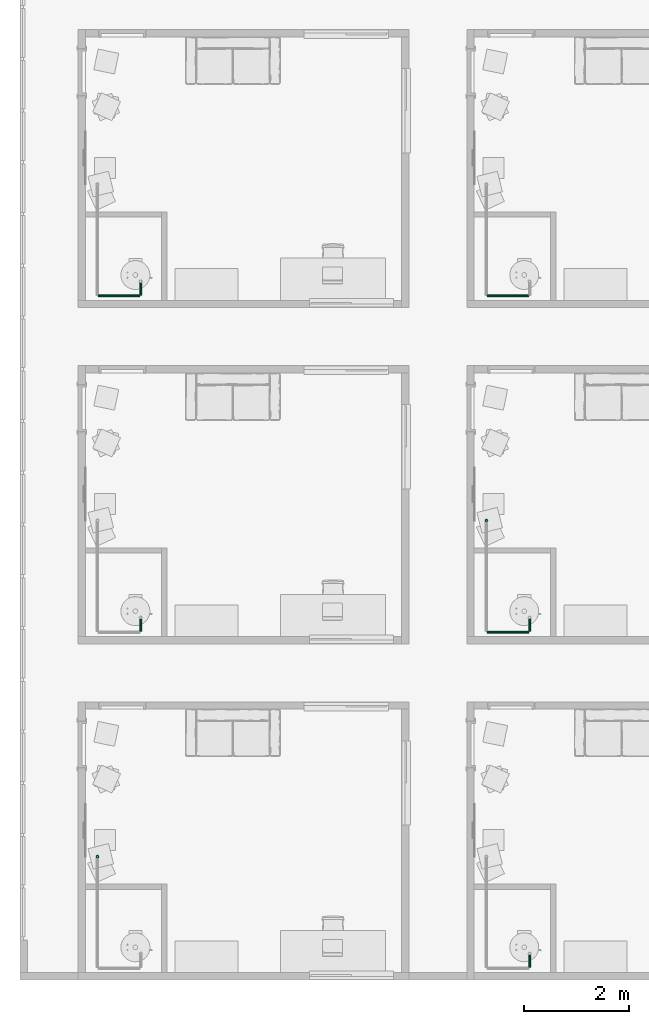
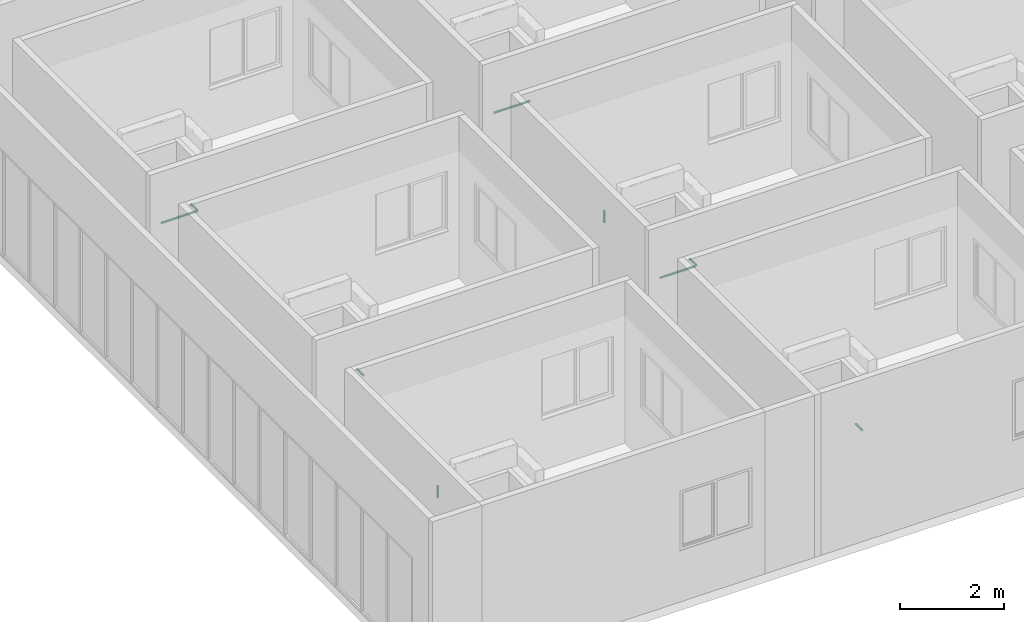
# One storey, part 40 of 71: 9 pipe segments.
"""IFC4 building model written with IfcOpenShell, lengths in centimetres."""

from ifc_helpers import new_model, entity, si_unit, converted_unit, derived_unit, direction, frame, origin, place, context, subcontext, project, spatial, arc, indexed_curve, outline, extrude, type_object, element, save


model = new_model("IFC4")

# Units and contexts
model_context = context("Model", 3, precision=0.001, world=origin(), true_north=direction((6.123233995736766e-17, 1.0)))
body_context = subcontext(model_context, "Body", "Model", "MODEL_VIEW")
ifc_project = project(units=[si_unit("LENGTHUNIT", "METRE", prefix="CENTI"), si_unit("AREAUNIT", "SQUARE_METRE"), si_unit("VOLUMEUNIT", "CUBIC_METRE"), derived_unit("THERMALTRANSMITTANCEUNIT", [(si_unit("MASSUNIT", "GRAM", prefix="KILO"), 1), (si_unit("THERMODYNAMICTEMPERATUREUNIT", "KELVIN"), -1), (si_unit("TIMEUNIT", "SECOND"), -3)]), converted_unit("PLANEANGLEUNIT", "DEGREE", entity("IfcPlaneAngleMeasure", 0.017453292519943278), si_unit("PLANEANGLEUNIT", "RADIAN"), dimensions=[0, 0, 0, 0, 0, 0, 0]), derived_unit("MASSDENSITYUNIT", [(si_unit("MASSUNIT", "GRAM", prefix="KILO"), 1), (si_unit("LENGTHUNIT", "METRE"), -3)]), derived_unit("VAPORPERMEABILITYUNIT", [(si_unit("LENGTHUNIT", "METRE"), -1), (si_unit("TIMEUNIT", "SECOND"), 1)]), derived_unit("USERDEFINED", [(si_unit("MASSUNIT", "GRAM", prefix="KILO"), 1), (si_unit("TIMEUNIT", "SECOND"), -3), (si_unit("LENGTHUNIT", "METRE"), 3), (si_unit("ELECTRICCURRENTUNIT", "AMPERE"), -2)]), derived_unit("SPECIFICHEATCAPACITYUNIT", [(si_unit("THERMODYNAMICTEMPERATUREUNIT", "KELVIN"), -1), (si_unit("LENGTHUNIT", "METRE"), 2), (si_unit("TIMEUNIT", "SECOND"), -2)]), derived_unit("THERMALCONDUCTANCEUNIT", [(si_unit("MASSUNIT", "GRAM", prefix="KILO"), 1), (si_unit("THERMODYNAMICTEMPERATUREUNIT", "KELVIN"), -1), (si_unit("TIMEUNIT", "SECOND"), -3), (si_unit("LENGTHUNIT", "METRE"), 1)]), si_unit("PRESSUREUNIT", "PASCAL"), derived_unit("MODULUSOFELASTICITYUNIT", [(si_unit("MASSUNIT", "GRAM", prefix="KILO"), 1), (si_unit("LENGTHUNIT", "METRE"), -1), (si_unit("TIMEUNIT", "SECOND"), -2)]), derived_unit("THERMALEXPANSIONCOEFFICIENTUNIT", [(si_unit("THERMODYNAMICTEMPERATUREUNIT", "KELVIN"), -1)])], contexts=[model_context])

# Site, building, storey
site_placement = place(None, origin())
site = spatial("IfcSite", under=ifc_project, at=site_placement, Name="Default", CompositionType="ELEMENT")
building_placement = place(site_placement, origin())
building = spatial("IfcBuilding", under=site, at=building_placement, Name="IDS Escape Game Building", CompositionType="ELEMENT")
storey_placement = place(building_placement, frame((0.0, 0.0, 400.0)))
storey = spatial("IfcBuildingStorey", under=building, at=storey_placement, Name="01_First Floor", CompositionType="ELEMENT", Elevation=399.99999999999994)

# Pipe segments
pipe_segment_type = type_object("IfcPipeSegmentType", Name="Pipe Types:Piping Aluminum", PredefinedType="NOTDEFINED")
pipe_segment_1_placement = place(storey_placement, origin())
element("IfcPipeSegment", 1, at=pipe_segment_1_placement, inside=storey, type_object=pipe_segment_type, Name="Pipe Types:Piping Aluminum", ObjectType="Pipe Types:Piping Aluminum", PredefinedType="NOTDEFINED", context=body_context, shape_type="SweptSolid", body=[
    extrude(outline(indexed_curve([(2.4130000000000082, -2.7071678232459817e-14), (1.706248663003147, 1.7062486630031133), (-3.383959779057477e-15, 2.412999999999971), (-1.7062486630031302, 1.7062486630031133), (-2.412999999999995, 0.0), (-1.7062486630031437, -1.7062486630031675), (-6.767919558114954e-15, -2.413000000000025), (1.7062486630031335, -1.7062486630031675)], segments=[arc(1, 2, 3), arc(3, 4, 5), arc(5, 6, 7), arc(7, 8, 1)], self_intersect=False)), frame((30.046716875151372, 233.26482792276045, 244.09999999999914), z_axis=(0.0, 0.0, 1.0), x_axis=(-1.0, 0.0, 0.0)), (0.0, 0.0, 1.0), 27.900000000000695),
])
pipe_segment_2_placement = place(storey_placement, origin())
element("IfcPipeSegment", 2, at=pipe_segment_2_placement, inside=storey, type_object=pipe_segment_type, Name="Pipe Types:Piping Aluminum", ObjectType="Pipe Types:Piping Aluminum", PredefinedType="NOTDEFINED", context=body_context, shape_type="SweptSolid", body=[
    extrude(outline(indexed_curve([(2.4129999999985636, 0.0), (1.7062486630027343, 1.706248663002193), (1.4077272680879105e-12, 2.412999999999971), (-1.7062486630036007, 1.706248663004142), (-2.4130000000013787, 0.0), (-1.7062486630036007, -1.706248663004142), (1.4077272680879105e-12, -2.412999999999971), (1.7062486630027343, -1.706248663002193)], segments=[arc(1, 2, 3), arc(3, 4, 5), arc(5, 6, 7), arc(7, 8, 1)], self_intersect=False)), frame((850.1500000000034, 22.364827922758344, 242.0), z_axis=(0.0, 1.0, 0.0), x_axis=(-1.0, 0.0, 0.0)), (0.0, 0.0, 1.0), 25.43517207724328),
])
pipe_segment_3_placement = place(storey_placement, origin())
element("IfcPipeSegment", 3, at=pipe_segment_3_placement, inside=storey, type_object=pipe_segment_type, Name="Pipe Types:Piping Aluminum", ObjectType="Pipe Types:Piping Aluminum", PredefinedType="NOTDEFINED", context=body_context, shape_type="SweptSolid", body=[
    extrude(outline(indexed_curve([(2.412999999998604, 0.0), (1.7062486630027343, 1.706248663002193), (1.3941914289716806e-12, 2.412999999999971), (-1.7062486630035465, 1.706248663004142), (-2.4130000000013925, 0.0), (-1.70624866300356, -1.706248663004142), (1.3806555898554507e-12, -2.412999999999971), (1.7062486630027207, -1.706248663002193)], segments=[arc(1, 2, 3), arc(3, 4, 5), arc(5, 6, 7), arc(7, 8, 1)], self_intersect=False)), frame((112.15000000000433, 660.3648279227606, 242.0), z_axis=(0.0, 1.0, 0.0), x_axis=(-1.0, 0.0, 0.0)), (0.0, 0.0, 1.0), 25.43517207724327),
])
pipe_segment_4_placement = place(storey_placement, origin())
element("IfcPipeSegment", 4, at=pipe_segment_4_placement, inside=storey, type_object=pipe_segment_type, Name="Pipe Types:Piping Aluminum", ObjectType="Pipe Types:Piping Aluminum", PredefinedType="NOTDEFINED", context=body_context, shape_type="SweptSolid", body=[
    extrude(outline(indexed_curve([(2.4129999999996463, -2.165734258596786e-13), (1.7062486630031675, 1.7062486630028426), (4.331468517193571e-13, 2.4130000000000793), (-1.7062486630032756, 1.706248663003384), (-2.413000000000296, -2.165734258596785e-13), (-1.706248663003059, -1.706248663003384), (4.3314685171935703e-13, -2.412999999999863), (1.7062486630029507, -1.7062486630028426)], segments=[arc(1, 2, 3), arc(3, 4, 5), arc(5, 6, 7), arc(7, 8, 1)], self_intersect=False)), frame((769.1467168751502, 659.2648279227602, 242.0), z_axis=(1.0, 0.0, 0.0), x_axis=(0.0, 1.0, 0.0)), (0.0, 0.0, 1.0), 79.90328312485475),
])
pipe_segment_5_placement = place(storey_placement, origin())
element("IfcPipeSegment", 5, at=pipe_segment_5_placement, inside=storey, type_object=pipe_segment_type, Name="Pipe Types:Piping Aluminum", ObjectType="Pipe Types:Piping Aluminum", PredefinedType="NOTDEFINED", context=body_context, shape_type="SweptSolid", body=[
    extrude(outline(indexed_curve([(2.4129999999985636, 0.0), (1.7062486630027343, 1.706248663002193), (1.4077272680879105e-12, 2.412999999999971), (-1.7062486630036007, 1.706248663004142), (-2.4130000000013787, 0.0), (-1.7062486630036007, -1.706248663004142), (1.4077272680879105e-12, -2.412999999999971), (1.7062486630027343, -1.706248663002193)], segments=[arc(1, 2, 3), arc(3, 4, 5), arc(5, 6, 7), arc(7, 8, 1)], self_intersect=False)), frame((850.1500000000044, 660.3648279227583, 242.0), z_axis=(0.0, 1.0, 0.0), x_axis=(-1.0, 0.0, 0.0)), (0.0, 0.0, 1.0), 25.43517207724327),
])
pipe_segment_6_placement = place(storey_placement, origin())
element("IfcPipeSegment", 6, at=pipe_segment_6_placement, inside=storey, type_object=pipe_segment_type, Name="Pipe Types:Piping Aluminum", ObjectType="Pipe Types:Piping Aluminum", PredefinedType="NOTDEFINED", context=body_context, shape_type="SweptSolid", body=[
    extrude(outline(indexed_curve([(2.412999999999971, 0.0), (1.7062486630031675, 1.7062486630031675), (0.0, 2.412999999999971), (-1.7062486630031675, 1.7062486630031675), (-2.412999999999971, 0.0), (-1.7062486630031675, -1.7062486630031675), (0.0, -2.412999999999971), (1.7062486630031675, -1.7062486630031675)], segments=[arc(1, 2, 3), arc(3, 4, 5), arc(5, 6, 7), arc(7, 8, 1)], self_intersect=False)), frame((768.0467168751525, 871.2648279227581, 244.09999999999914), z_axis=(0.0, 0.0, 1.0), x_axis=(-1.0, 0.0, 0.0)), (0.0, 0.0, 1.0), 27.900000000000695),
])
pipe_segment_7_placement = place(storey_placement, origin())
element("IfcPipeSegment", 7, at=pipe_segment_7_placement, inside=storey, type_object=pipe_segment_type, Name="Pipe Types:Piping Aluminum", ObjectType="Pipe Types:Piping Aluminum", PredefinedType="NOTDEFINED", context=body_context, shape_type="SweptSolid", body=[
    extrude(outline(indexed_curve([(2.412999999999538, -2.165734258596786e-13), (1.7062486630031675, 1.7062486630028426), (4.331468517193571e-13, 2.4130000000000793), (-1.706248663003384, 1.7062486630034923), (-2.4130000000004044, -2.165734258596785e-13), (-1.7062486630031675, -1.7062486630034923), (4.3314685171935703e-13, -2.412999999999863), (1.7062486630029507, -1.7062486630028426)], segments=[arc(1, 2, 3), arc(3, 4, 5), arc(5, 6, 7), arc(7, 8, 1)], self_intersect=False)), frame((31.14671687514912, 1297.2648279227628, 242.0), z_axis=(1.0, 0.0, 0.0), x_axis=(0.0, 1.0, 0.0)), (0.0, 0.0, 1.0), 79.9032831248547),
])
pipe_segment_8_placement = place(storey_placement, origin())
element("IfcPipeSegment", 8, at=pipe_segment_8_placement, inside=storey, type_object=pipe_segment_type, Name="Pipe Types:Piping Aluminum", ObjectType="Pipe Types:Piping Aluminum", PredefinedType="NOTDEFINED", context=body_context, shape_type="SweptSolid", body=[
    extrude(outline(indexed_curve([(2.412999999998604, 0.0), (1.7062486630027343, 1.706248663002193), (1.3941914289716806e-12, 2.412999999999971), (-1.7062486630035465, 1.706248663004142), (-2.4130000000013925, 0.0), (-1.70624866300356, -1.706248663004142), (1.3806555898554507e-12, -2.412999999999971), (1.7062486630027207, -1.706248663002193)], segments=[arc(1, 2, 3), arc(3, 4, 5), arc(5, 6, 7), arc(7, 8, 1)], self_intersect=False)), frame((112.15000000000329, 1298.3648279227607, 242.0), z_axis=(0.0, 1.0, 0.0), x_axis=(-1.0, 0.0, 0.0)), (0.0, 0.0, 1.0), 25.43517207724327),
])
pipe_segment_9_placement = place(storey_placement, origin())
element("IfcPipeSegment", 9, at=pipe_segment_9_placement, inside=storey, type_object=pipe_segment_type, Name="Pipe Types:Piping Aluminum", ObjectType="Pipe Types:Piping Aluminum", PredefinedType="NOTDEFINED", context=body_context, shape_type="SweptSolid", body=[
    extrude(outline(indexed_curve([(2.412999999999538, -2.165734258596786e-13), (1.7062486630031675, 1.7062486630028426), (4.331468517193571e-13, 2.4130000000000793), (-1.706248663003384, 1.7062486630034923), (-2.4130000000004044, -2.165734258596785e-13), (-1.7062486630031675, -1.7062486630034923), (4.3314685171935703e-13, -2.412999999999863), (1.7062486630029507, -1.7062486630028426)], segments=[arc(1, 2, 3), arc(3, 4, 5), arc(5, 6, 7), arc(7, 8, 1)], self_intersect=False)), frame((769.1467168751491, 1297.2648279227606, 242.0), z_axis=(1.0, 0.0, 0.0), x_axis=(0.0, 1.0, 0.0)), (0.0, 0.0, 1.0), 79.90328312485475),
])

save(model, "model.ifc")
